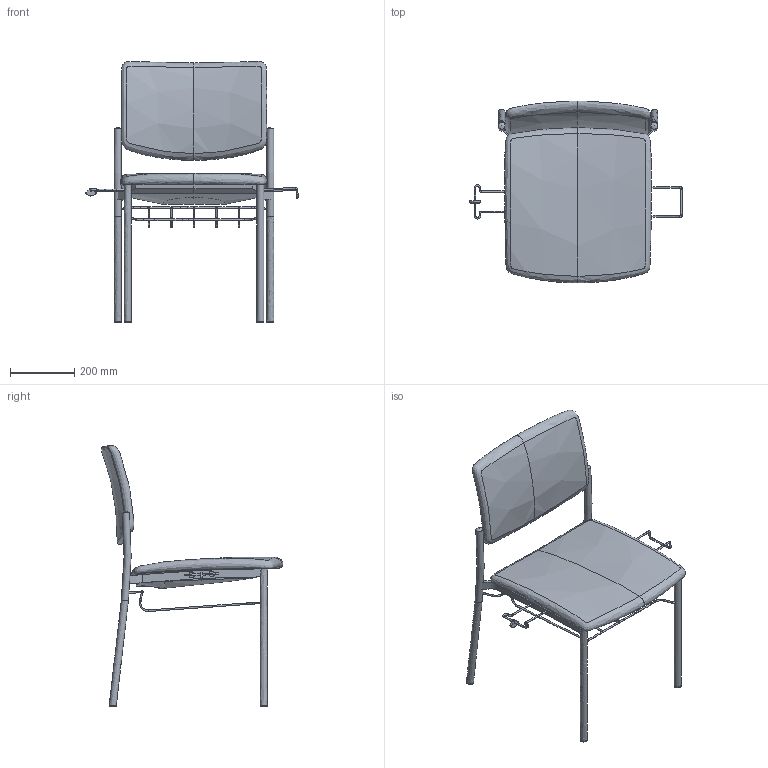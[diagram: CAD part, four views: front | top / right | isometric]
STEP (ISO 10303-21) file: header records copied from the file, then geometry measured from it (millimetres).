
FILE_DESCRIPTION(/* description */ (''),/* implementation_level */ '2;1');
FILE_NAME(/* name */ 'Seance 090+dopl',/* time_stamp */ '2020-03-26T15:23:15+01:00',/* author */ (''),/* organization */ (''),/* preprocessor_version */ 'ST-DEVELOPER v16.5',/* originating_system */ '',/* authorisation */ '');
FILE_SCHEMA (('AUTOMOTIVE_DESIGN'));
Length unit declared in the file: millimetre
Products named in the file (1): Document
Bounding box: 659.37 x 564.48 x 811.07 mm (x, y, z)
Volume: 12133322.2 mm3; surface area: 1232776.7 mm2
Topology: 13 solids, 31 shells, 159 faces, 318 edges, 197 vertices
Faces by surface type: bspline 107, plane 52
Entity records: 9771 total; most frequent: CARTESIAN_POINT 7600, ORIENTED_EDGE 590, EDGE_CURVE 313, VERTEX_POINT 191, EDGE_LOOP 163, ADVANCED_FACE 159, FACE_OUTER_BOUND 159, B_SPLINE_CURVE_WITH_KNOTS 126
